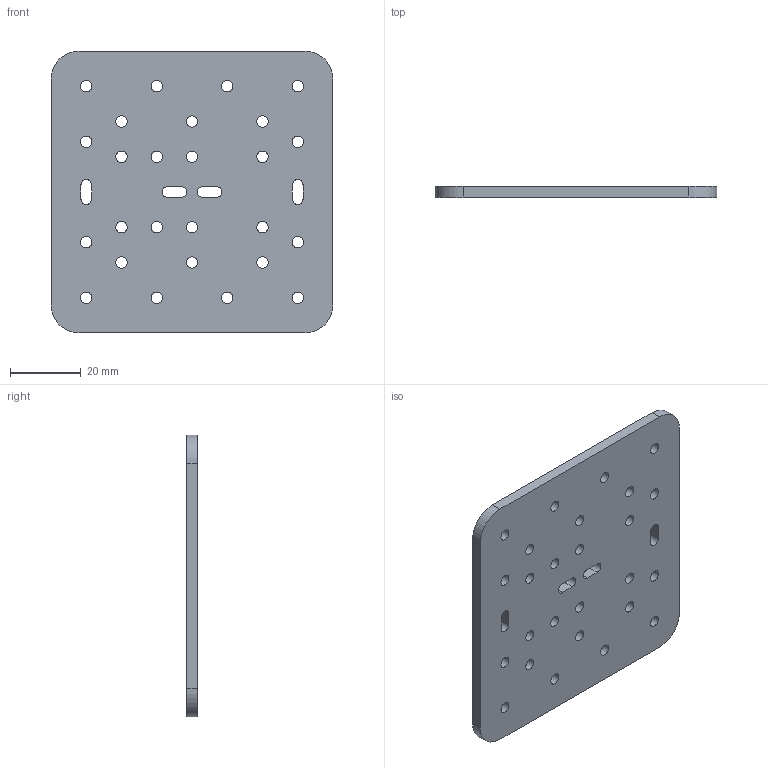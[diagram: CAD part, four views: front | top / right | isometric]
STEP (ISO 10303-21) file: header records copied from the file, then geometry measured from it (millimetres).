
FILE_DESCRIPTION(/* description */ (''),/* implementation_level */ '2;1');
FILE_NAME(/* name */ 'C:/Users/Ulises/Desktop/T1/mecanica_cad/SR_placa_base.step',/* time_stamp */ '2020-10-16T01:29:07-03:00',/* author */ (''),/* organization */ (''),/* preprocessor_version */ 'ST-DEVELOPER v18.1',/* originating_system */ 'Autodesk Translation Framework v9.3.0.1241',/* authorisation */ '');
FILE_SCHEMA (('AUTOMOTIVE_DESIGN { 1 0 10303 214 3 1 1 }'));
Length unit declared in the file: millimetre
Products named in the file (1): SR placa_base 2
Bounding box: 80 x 3 x 80 mm (x, y, z)
Volume: 18179 mm3; surface area: 14031.4 mm2
Topology: 1 solids, 1 shells, 52 faces, 150 edges, 100 vertices
Faces by surface type: cylinder 38, plane 14
Full cylindrical faces by diameter (mm): 3.2 x26
Entity records: 1910 total; most frequent: DIRECTION 332, CARTESIAN_POINT 303, ORIENTED_EDGE 300, EDGE_CURVE 150, AXIS2_PLACEMENT_3D 129, EDGE_LOOP 112, VERTEX_POINT 100, CIRCLE 76
